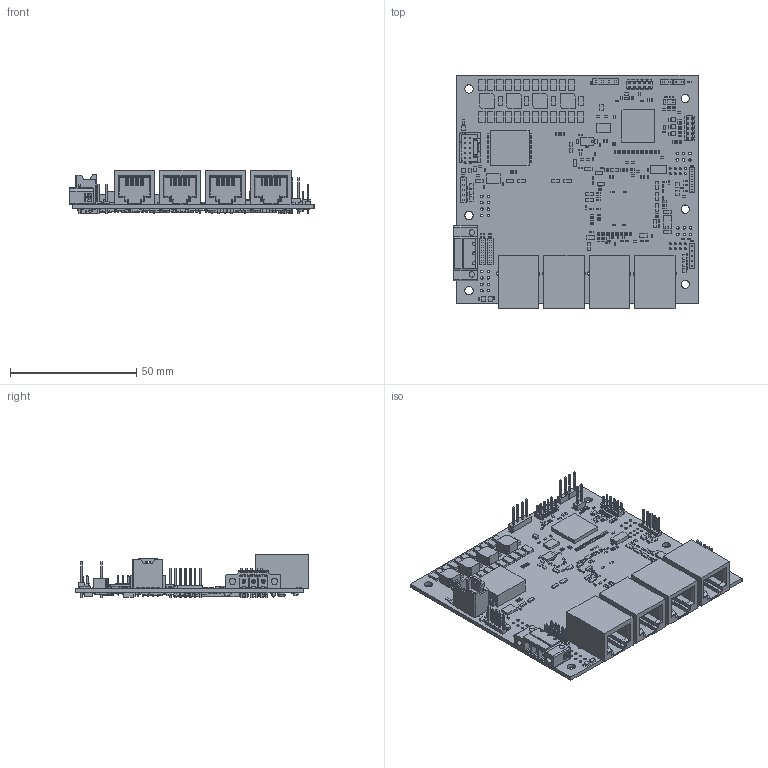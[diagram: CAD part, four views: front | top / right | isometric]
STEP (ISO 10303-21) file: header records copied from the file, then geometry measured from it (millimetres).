
FILE_DESCRIPTION(('Open CASCADE Model'),'2;1');
FILE_NAME('Open CASCADE Shape Model','2012-04-12T13:42:12',('Author'),( 'Open CASCADE'),'Open CASCADE STEP processor 6.2','Open CASCADE 6.2' ,'Unknown');
FILE_SCHEMA(('AUTOMOTIVE_DESIGN { 1 0 10303 214 1 1 1 1 }'));
Length unit declared in the file: millimetre
Products named in the file (653): PCB; Board; C195; 379907872; Extruded; C152; 470818304; C184; C167; C144; C179; R115; U28; 470818560; U37; U25; U31; U29; U34; U41; U40; R139; R148; R143; R158; R173; R166; U36; 470819072; C156; C219; 379909920; C138; C207; 470818048; C131; C146; R193; R224; R225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
Assembly tree (1262 placements, depth 4):
  PCB
    Board
    C195
      379907872
        Extruded
    C152
      470818304
        Extruded
    C184
      470818304
        Extruded
    C167
      379907872
        Extruded
    C144
      379907872
        Extruded
    C179
      379907872
        Extruded
    R115
      379907872
        Extruded
    U28
      470818560
        Extruded
    U37
      470818560
        Extruded
    U25
      470818560
        Extruded
    U31
      470818560
        Extruded
    U29
      470818560
        Extruded
    U34
      470818560
        Extruded
    U41
      470818560
        Extruded
    U40
      470818560
        Extruded
    R139
      379907872
        Extruded
    R148
      379907872
        Extruded
    R143
      379907872
        Extruded
    R158
      379907872
        Extruded
    R173
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Bounding box: 96.8 x 92.43 x 17.23 mm (x, y, z)
Volume: 33527.6 mm3; surface area: 41403.7 mm2
Topology: 659 solids, 661 shells, 6280 faces, 13964 edges, 9161 vertices
Faces by surface type: plane 5654, cylinder 594, cone 24, sphere 6, torus 2
Full cylindrical faces by diameter (mm): 0.8 x16, 0.81 x27, 0.89 x40, 1 x74, 1.2 x3, 1.3 x1, 1.6 x8, 3.25 x8, 3.3 x6
Entity records: 136093 total; most frequent: CARTESIAN_POINT 33112, DIRECTION 18006, LINE 10619, VECTOR 10619, ORIENTED_EDGE 8480, PCURVE 8476, DEFINITIONAL_REPRESENTATION 8476, EDGE_CURVE 4238
